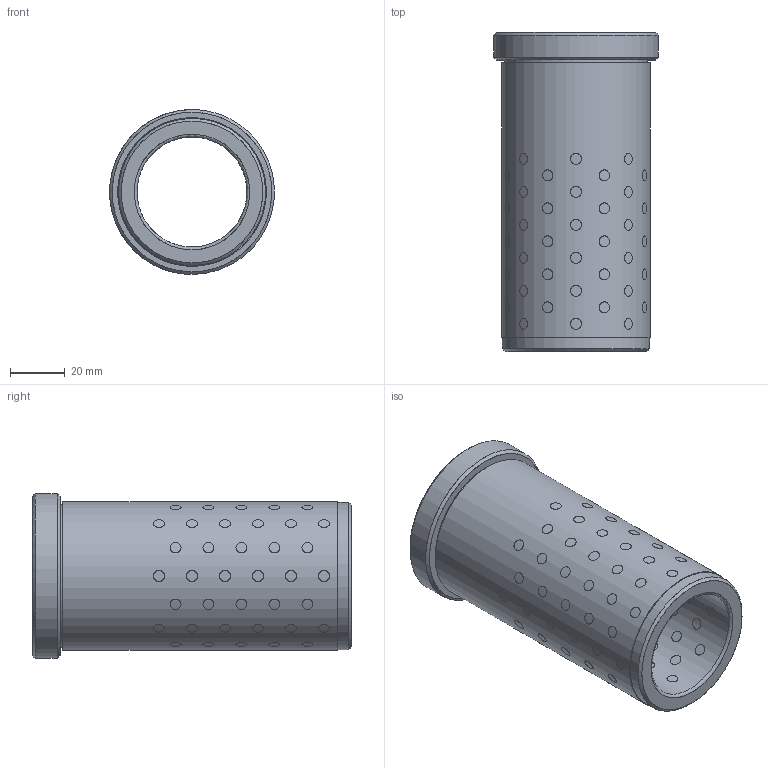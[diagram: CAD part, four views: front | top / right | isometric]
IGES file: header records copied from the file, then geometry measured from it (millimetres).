
Start section: Missler Software BP 521, 31674 Labege Cedex, France Tel   : +33 (0)5 61 00 03 00 Fax   : +33 (0)5 61 00 03 03 Email : sup.topsolid@topsolid.com
Global section: file name: D:\Cuma\D30.05\D30.05_40116.igs; native system: TopSolid v605250 Missler Software; preprocessor: IGES preprocessor v100000; date: 030120.205218; units: millimetre
Bounding box: 59.93 x 116 x 60 mm (x, y, z)
Surface area: 49236.7 mm2 (no closed solid volume)
Topology: 0 solids, 0 shells, 327 faces, 6388 edges, 6172 vertices
Faces by surface type: bspline 327
